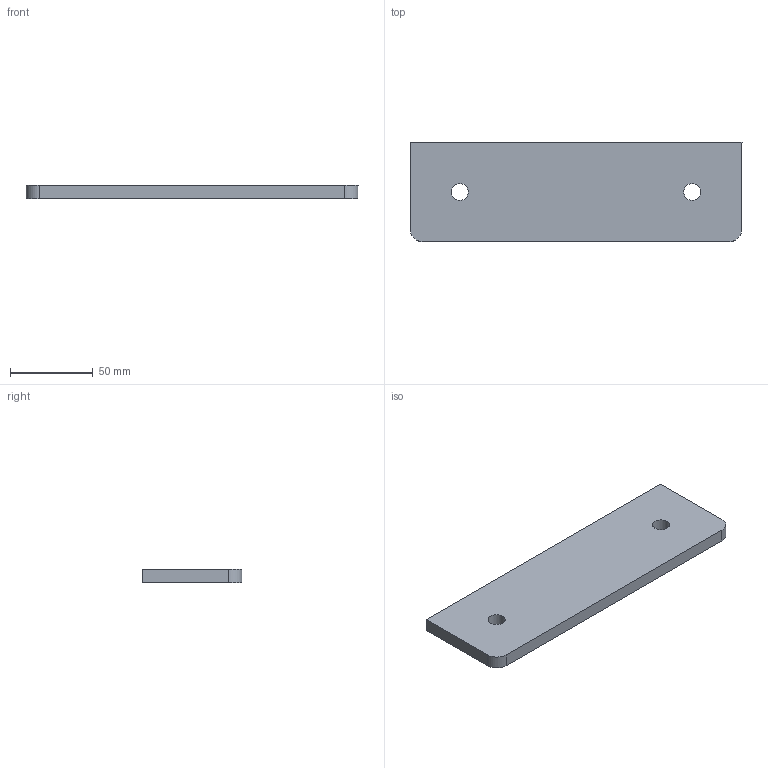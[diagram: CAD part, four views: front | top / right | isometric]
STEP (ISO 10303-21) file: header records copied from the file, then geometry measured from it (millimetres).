
FILE_DESCRIPTION(/* description */ (''),/* implementation_level */ '2;1');
FILE_NAME(/* name */ 'Pos145-Plaatwerk D= 8-S235JRG2-3st',/* time_stamp */ '2024-08-06T13:37:44+02:00',/* author */ (''),/* organization */ (''),/* preprocessor_version */ 'ST-DEVELOPER v16.5',/* originating_system */ 'HiCAD 2024 2901.2 Build 361',/* authorisation */ '');
FILE_SCHEMA (('AUTOMOTIVE_DESIGN { 1 0 10303 214 1 1 1 1 }'));
Length unit declared in the file: millimetre
Products named in the file (1): Pos145-Plaatwerk D= 8-S235JRG2-3st
Bounding box: 200 x 60 x 8 mm (x, y, z)
Volume: 94472.8 mm3; surface area: 28236 mm2
Topology: 1 solids, 1 shells, 10 faces, 24 edges, 16 vertices
Faces by surface type: plane 6, cylinder 4
Full cylindrical faces by diameter (mm): 10.2 x2
Entity records: 532 total; most frequent: DIRECTION 50, CARTESIAN_POINT 48, PRESENTATION_STYLE_ASSIGNMENT 45, COLOUR_RGB 45, DRAUGHTING_PRE_DEFINED_CURVE_FONT 44, CURVE_STYLE 44, OVER_RIDING_STYLED_ITEM 44, ORIENTED_EDGE 44
